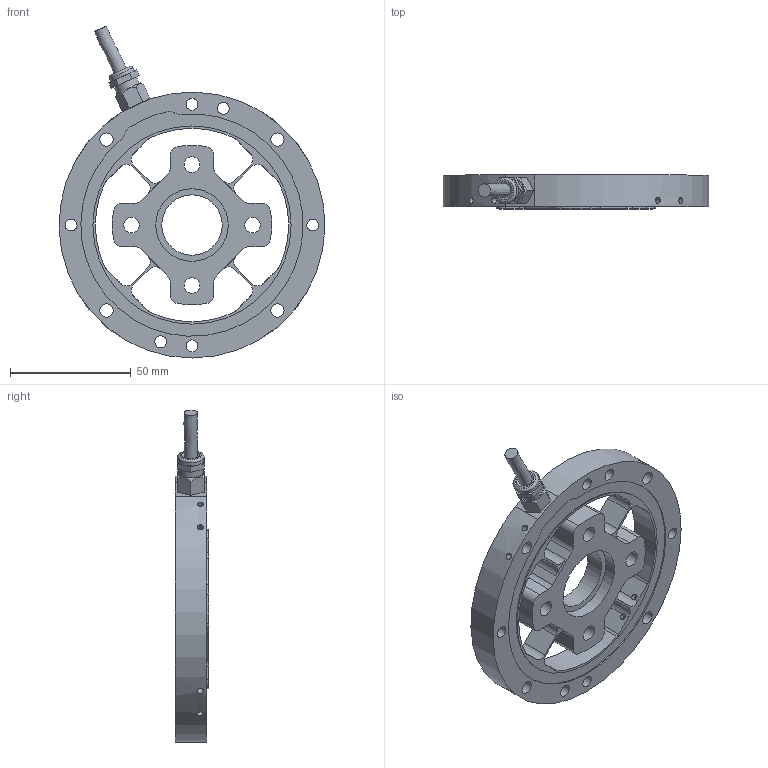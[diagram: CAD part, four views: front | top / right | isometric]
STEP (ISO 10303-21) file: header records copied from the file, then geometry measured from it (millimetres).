
FILE_DESCRIPTION(/* description */ ('Alibre Inc.'),/* implementation_level */ '2;1');
FILE_NAME(/* name */ 'export0',/* time_stamp */ '2014-07-28T16:27:26+02:00',/* author */ (''),/* organization */ (''),/* preprocessor_version */ 'ST-DEVELOPER v14',/* originating_system */ 'Alibre',/* authorisation */ '');
FILE_SCHEMA (('CONFIG_CONTROL_DESIGN'));
Length unit declared in the file: centimetre
Products named in the file (8): ID_1; ID_2; ID_3; ID_4
Bounding box: 109.98 x 14 x 137.35 mm (x, y, z)
Volume: 77494.3 mm3; surface area: 34853.6 mm2
Topology: 5 solids, 5 shells, 306 faces, 802 edges, 542 vertices
Faces by surface type: plane 173, cylinder 125, cone 4, torus 3, bspline 1
Full cylindrical faces by diameter (mm): 2.5 x16, 3 x1, 4.5 x1, 4.917 x4, 5 x2, 5.5 x5, 6.5 x4, 6.647 x1, 8 x1, 10 x1, 10.8 x1, 11 x4, 25 x1, 30 x1, 82 x2, 90 x1
Entity records: 10907 total; most frequent: CARTESIAN_POINT 3078, ORIENTED_EDGE 1440, DIRECTION 1261, EDGE_CURVE 720, VERTEX_POINT 514, AXIS2_PLACEMENT_3D 488, VECTOR 448, LINE 448
